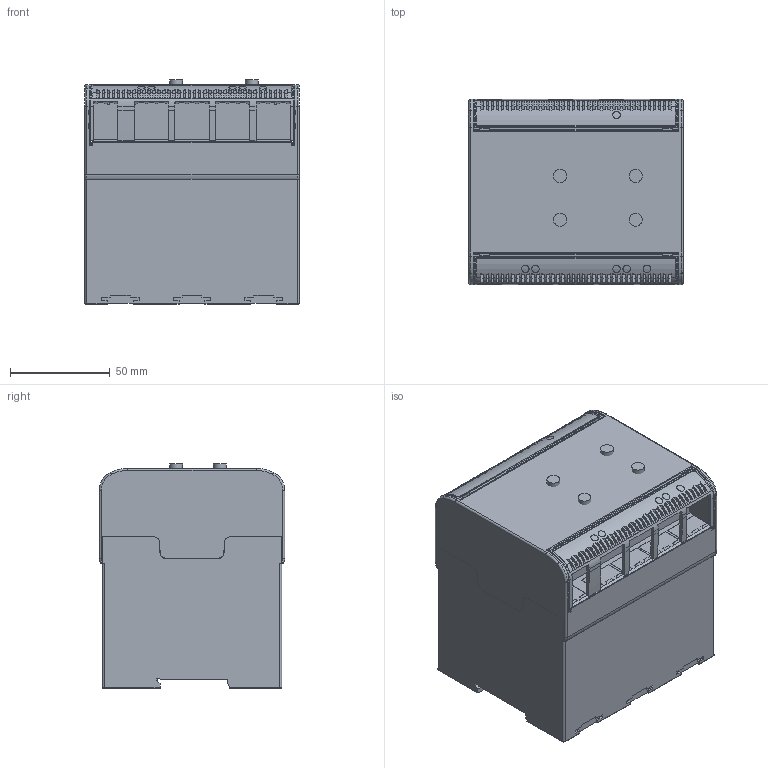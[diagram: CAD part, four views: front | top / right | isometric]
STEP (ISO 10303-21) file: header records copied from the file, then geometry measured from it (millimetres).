
FILE_DESCRIPTION(/* description */ (''),/* implementation_level */ '2;1');
FILE_NAME(/* name */ 'X:\Digidirect\CAD\Importierte Komponenten\VMD258\VMD258_Substitute_2.stp',/* time_stamp */ '2014-06-26T12:18:08+02:00',/* author */ ('m.jost'),/* organization */ (''),/* preprocessor_version */ 'ST-DEVELOPER v15.2',/* originating_system */ 'Autodesk Inventor 2014',/* authorisation */ '');
FILE_SCHEMA (('CONFIG_CONTROL_DESIGN'));
Length unit declared in the file: millimetre
Products named in the file (1): VMD258_Substitute_2
Bounding box: 107.5 x 93 x 112.4 mm (x, y, z)
Surface area: 79577.4 mm2 (no closed solid volume)
Topology: 0 solids, 32 shells, 737 faces, 3231 edges, 2302 vertices
Faces by surface type: plane 503, cylinder 198, torus 32, bspline 4
Full cylindrical faces by diameter (mm): 3.7 x6, 6.5 x4
Entity records: 34571 total; most frequent: CARTESIAN_POINT 8681, DIRECTION 5229, ORIENTED_EDGE 5069, EDGE_CURVE 3221, VERTEX_POINT 2302, LINE 2105, VECTOR 2105, AXIS2_PLACEMENT_3D 1562
